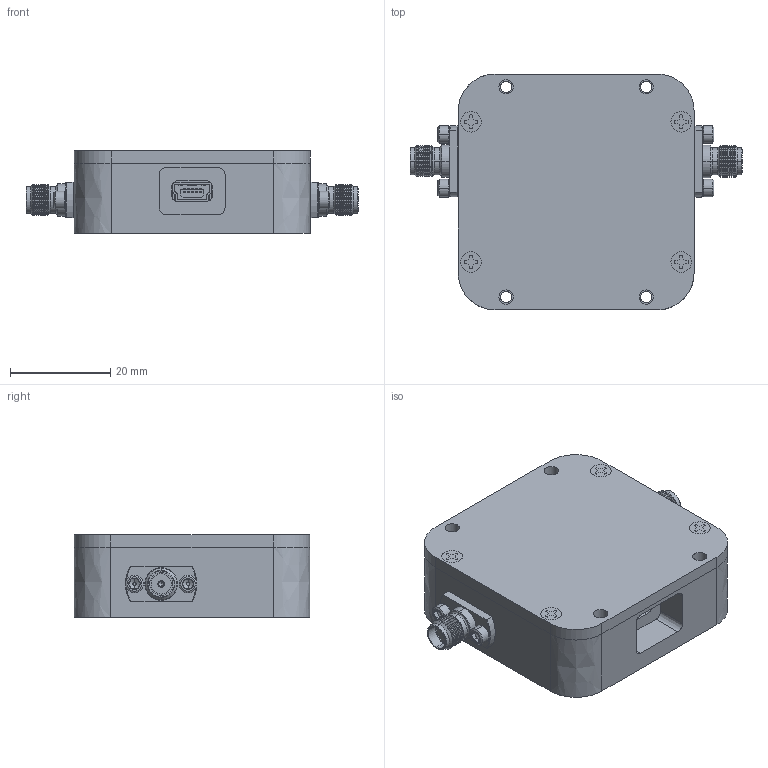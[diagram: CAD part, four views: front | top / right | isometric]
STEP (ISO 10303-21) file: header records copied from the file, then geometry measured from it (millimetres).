
FILE_DESCRIPTION(('FreeCAD Model'),'2;1');
FILE_NAME('C:/Users/Daniel/Dropbox (Atlanta Micro)/Designs/AM Modules/Custom Enclosures/Customer 3D Models/Filter Module/FilterModule_STEP.step', '2022-07-12T15:39:46',('Author'),(''), 'Open CASCADE STEP processor 7.3','FreeCAD','Unknown');
FILE_SCHEMA(('AUTOMOTIVE_DESIGN { 1 0 10303 214 1 1 1 1 }'));
Length unit declared in the file: millimetre
Products named in the file (13): MUSB-05-F-B-SM-A-TR1_001; ANO_212-931-15321_001; ANO_212-931-15321_002; Phillips_Flat_Head_Screw_2-56_x_3-16in1_002; Phillips_Flat_Head_Screw_2-56_x_3-16in1_001; Phillips_Flat_Head_Screw_2-56_x_3-16in1_003; Phillips_Flat_Head_Screw_2-56_x_3-16in1_004; Socket_Head_2-56_x_3-16in1_002; Socket_Head_2-56_x_3-16in1_004; FilterModuleEnclosure_Rev1.11_001; Socket_Head_2-56_x_3-16in1_001; Socket_Head_2-56_x_3-16in1_003; FilterModuleCover_Rev21_001
Bounding box: 66.18 x 46.99 x 16.52 mm (x, y, z)
Volume: 24173.9 mm3; surface area: 16681.9 mm2
Topology: 14 solids, 15 shells, 1496 faces, 3856 edges, 2460 vertices
Faces by surface type: extrusion 454, plane 426, cylinder 363, cone 205, torus 24, bspline 24
Full cylindrical faces by diameter (mm): 0.8 x2, 1.778 x4, 2.261 x4, 2.845 x4, 4.953 x2, 5.199 x1
Entity records: 128274 total; most frequent: CARTESIAN_POINT 46993, DIRECTION 11505, VECTOR 7786, ORIENTED_EDGE 7688, PCURVE 7688, DEFINITIONAL_REPRESENTATION 7688, LINE 7332, EDGE_CURVE 3844
